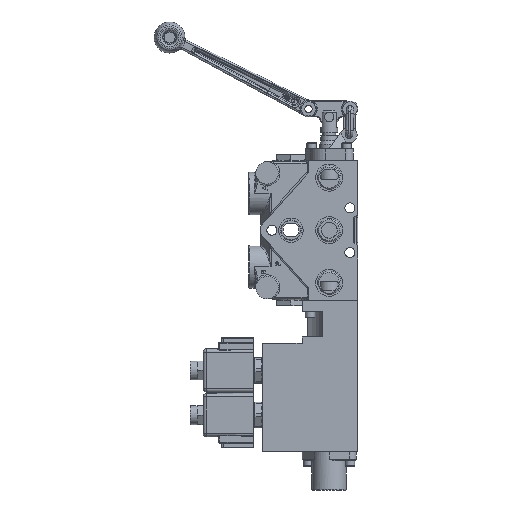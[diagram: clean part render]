
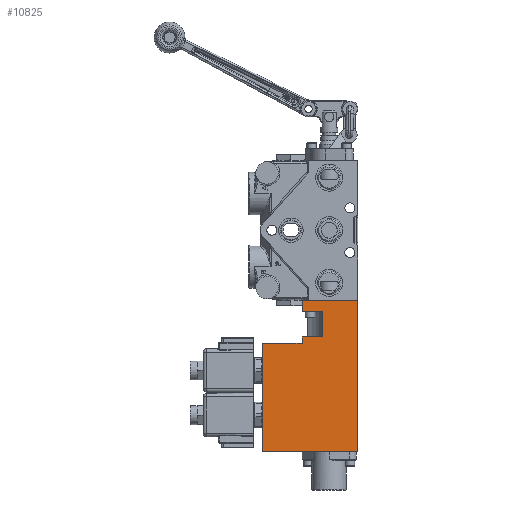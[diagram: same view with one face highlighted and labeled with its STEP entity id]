
A CAD part, left-side view. The second image highlights one B-rep face of the part: STEP entity #10825.
In plain terms, the highlighted planar face has unit normal (-1, 0, 0).
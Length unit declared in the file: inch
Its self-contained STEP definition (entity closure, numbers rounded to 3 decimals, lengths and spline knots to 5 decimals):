
#7907=CARTESIAN_POINT('',(-0.85,-1.125,-11.437));
#7908=VERTEX_POINT('',#7907);
#7917=CARTESIAN_POINT('',(-0.85,2.625,-11.437));
#7918=VERTEX_POINT('',#7917);
#7919=CARTESIAN_POINT('',(-0.85,2.625,-11.437));
#7920=DIRECTION('',(0.0,-1.0,0.0));
#7921=VECTOR('',#7920,3.75);
#7922=LINE('',#7919,#7921);
#7923=EDGE_CURVE('',#7918,#7908,#7922,.T.);
#9972=CARTESIAN_POINT('',(-0.85,0.81842,-5.5));
#9973=VERTEX_POINT('',#9972);
#10073=CARTESIAN_POINT('',(-0.85,1.062,-5.5));
#10074=VERTEX_POINT('',#10073);
#10081=CARTESIAN_POINT('',(-0.85,0.81842,-5.5));
#10082=DIRECTION('',(0.0,1.0,0.0));
#10083=VECTOR('',#10082,0.24358);
#10084=LINE('',#10081,#10083);
#10085=EDGE_CURVE('',#9973,#10074,#10084,.T.);
#10289=CARTESIAN_POINT('',(-0.85,0.27315,-6.937));
#10290=VERTEX_POINT('',#10289);
#10300=CARTESIAN_POINT('',(-0.85,0.27315,-5.937));
#10301=VERTEX_POINT('',#10300);
#10302=CARTESIAN_POINT('',(-0.85,0.27315,-5.937));
#10303=DIRECTION('',(0.0,0.0,-1.0));
#10304=VECTOR('',#10303,1.0);
#10305=LINE('',#10302,#10304);
#10306=EDGE_CURVE('',#10301,#10290,#10305,.T.);
#10331=CARTESIAN_POINT('',(-0.85,1.062,-6.937));
#10332=VERTEX_POINT('',#10331);
#10341=CARTESIAN_POINT('',(-0.85,0.27315,-6.937));
#10342=DIRECTION('',(0.0,1.0,0.0));
#10343=VECTOR('',#10342,0.78885);
#10344=LINE('',#10341,#10343);
#10345=EDGE_CURVE('',#10290,#10332,#10344,.T.);
#10373=CARTESIAN_POINT('',(-0.85,1.062,-5.937));
#10374=VERTEX_POINT('',#10373);
#10375=CARTESIAN_POINT('',(-0.85,1.062,-5.937));
#10376=DIRECTION('',(0.0,-1.0,0.0));
#10377=VECTOR('',#10376,0.78885);
#10378=LINE('',#10375,#10377);
#10379=EDGE_CURVE('',#10374,#10301,#10378,.T.);
#10516=CARTESIAN_POINT('',(-0.85,1.062,-5.5));
#10517=DIRECTION('',(0.0,0.0,-1.0));
#10518=VECTOR('',#10517,0.437);
#10519=LINE('',#10516,#10518);
#10520=EDGE_CURVE('',#10074,#10374,#10519,.T.);
#10608=CARTESIAN_POINT('',(-0.85,1.062,-7.187));
#10609=VERTEX_POINT('',#10608);
#10616=CARTESIAN_POINT('',(-0.85,1.062,-6.937));
#10617=DIRECTION('',(0.0,0.0,-1.0));
#10618=VECTOR('',#10617,0.25);
#10619=LINE('',#10616,#10618);
#10620=EDGE_CURVE('',#10332,#10609,#10619,.T.);
#10655=CARTESIAN_POINT('',(-0.85,2.625,-7.187));
#10656=VERTEX_POINT('',#10655);
#10663=CARTESIAN_POINT('',(-0.85,1.062,-7.187));
#10664=DIRECTION('',(0.0,1.0,0.0));
#10665=VECTOR('',#10664,1.563);
#10666=LINE('',#10663,#10665);
#10667=EDGE_CURVE('',#10609,#10656,#10666,.T.);
#10747=CARTESIAN_POINT('',(-0.85,2.625,-7.187));
#10748=DIRECTION('',(0.0,0.0,-1.0));
#10749=VECTOR('',#10748,4.25);
#10750=LINE('',#10747,#10749);
#10751=EDGE_CURVE('',#10656,#7918,#10750,.T.);
#10795=CARTESIAN_POINT('',(-0.85,2.625,-5.5));
#10796=DIRECTION('',(-1.0,0.0,0.0));
#10797=DIRECTION('',(0.0,0.0,1.0));
#10798=AXIS2_PLACEMENT_3D('',#10795,#10796,#10797);
#10799=PLANE('',#10798);
#10800=ORIENTED_EDGE('',*,*,#10345,.T.);
#10801=ORIENTED_EDGE('',*,*,#10620,.T.);
#10802=ORIENTED_EDGE('',*,*,#10667,.T.);
#10803=ORIENTED_EDGE('',*,*,#10751,.T.);
#10804=ORIENTED_EDGE('',*,*,#7923,.T.);
#10805=CARTESIAN_POINT('',(-0.85,-1.125,-5.5));
#10806=VERTEX_POINT('',#10805);
#10807=CARTESIAN_POINT('',(-0.85,-1.125,-5.5));
#10808=DIRECTION('',(0.0,0.0,-1.0));
#10809=VECTOR('',#10808,5.937);
#10810=LINE('',#10807,#10809);
#10811=EDGE_CURVE('',#10806,#7908,#10810,.T.);
#10812=ORIENTED_EDGE('',*,*,#10811,.F.);
#10813=CARTESIAN_POINT('',(-0.85,0.81842,-5.5));
#10814=DIRECTION('',(0.0,-1.0,0.0));
#10815=VECTOR('',#10814,1.94342);
#10816=LINE('',#10813,#10815);
#10817=EDGE_CURVE('',#9973,#10806,#10816,.T.);
#10818=ORIENTED_EDGE('',*,*,#10817,.F.);
#10819=ORIENTED_EDGE('',*,*,#10085,.T.);
#10820=ORIENTED_EDGE('',*,*,#10520,.T.);
#10821=ORIENTED_EDGE('',*,*,#10379,.T.);
#10822=ORIENTED_EDGE('',*,*,#10306,.T.);
#10823=EDGE_LOOP('',(#10800,#10801,#10802,#10803,#10804,#10812,#10818,#10819,#10820,#10821,#10822));
#10824=FACE_OUTER_BOUND('',#10823,.T.);
#10825=ADVANCED_FACE('',(#10824),#10799,.T.);
